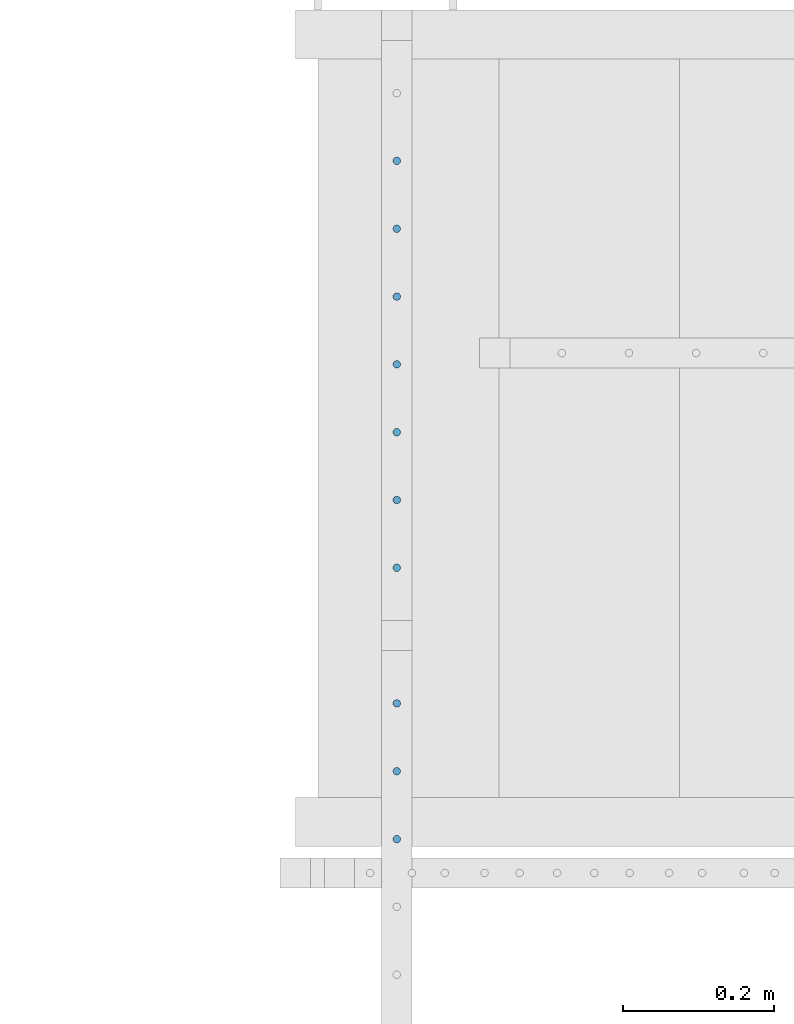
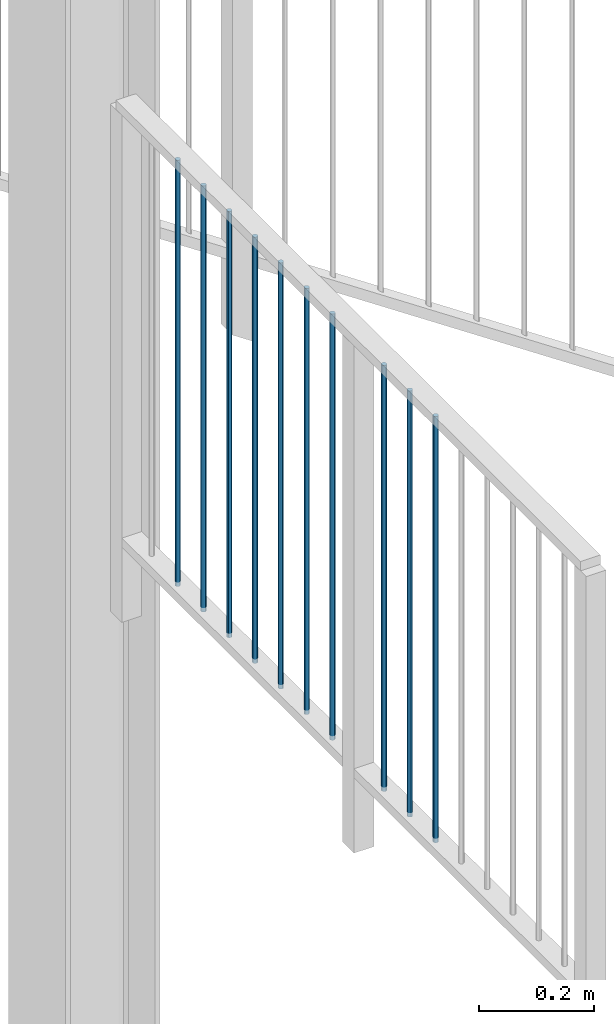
# One storey, part 22 of 135: 10 members, 1 element without a shape of its own.
"""IFC2X3 building model written with IfcOpenShell, lengths in millimetres."""

from ifc_helpers import new_model, entity, si_unit, converted_unit, derived_unit, money_unit, direction, frame, origin_with_axes, place, context, subcontext, project, spatial, faceted_brep, source, transform, mapped, material, type_object, type_shapes, element, aggregate, save


model = new_model("IFC2X3")

# Units and contexts
model_context = context("Model", 3, precision=0.01, world=origin_with_axes(), true_north=direction((0.0, 1.0)))
body_context = subcontext(model_context, "Body", "Model", "MODEL_VIEW")
ifc_project = project(units=[si_unit("LENGTHUNIT", "METRE", prefix="MILLI"), si_unit("AREAUNIT", "SQUARE_METRE"), si_unit("VOLUMEUNIT", "CUBIC_METRE"), converted_unit("PLANEANGLEUNIT", "DEGREE", entity("IfcPlaneAngleMeasure", 0.0174532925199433), si_unit("PLANEANGLEUNIT", "RADIAN"), dimensions=[0, 0, 0, 0, 0, 0, 0]), money_unit("EUR"), converted_unit("TIMEUNIT", "Year", entity("IfcTimeMeasure", 31557600.0), si_unit("TIMEUNIT", "SECOND"), dimensions=[0, 0, 1, 0, 0, 0, 0]), si_unit("MASSUNIT", "GRAM", prefix="KILO"), si_unit("THERMODYNAMICTEMPERATUREUNIT", "DEGREE_CELSIUS"), si_unit("LUMINOUSINTENSITYUNIT", "LUMEN"), si_unit("ENERGYUNIT", "JOULE", prefix="MEGA"), derived_unit("THERMALCONDUCTANCEUNIT", [(si_unit("POWERUNIT", "WATT"), 1), (si_unit("LENGTHUNIT", "METRE"), -1), (si_unit("THERMODYNAMICTEMPERATUREUNIT", "KELVIN"), -1)]), derived_unit("SPECIFICHEATCAPACITYUNIT", [(si_unit("ENERGYUNIT", "JOULE"), 1), (si_unit("MASSUNIT", "GRAM", prefix="KILO"), -1), (si_unit("THERMODYNAMICTEMPERATUREUNIT", "KELVIN"), -1)]), derived_unit("MASSDENSITYUNIT", [(si_unit("MASSUNIT", "GRAM", prefix="KILO"), 1), (si_unit("VOLUMEUNIT", "CUBIC_METRE"), -1)])], contexts=[model_context])

# Site, building, storey
site_placement = place(None, origin_with_axes())
site = spatial("IfcSite", under=ifc_project, at=site_placement, Name="Site", CompositionType="ELEMENT")
building_placement = place(site_placement, origin_with_axes())
building = spatial("IfcBuilding", under=site, at=building_placement, Name="Naam gebouw", CompositionType="ELEMENT")
storey_placement = place(building_placement, origin_with_axes())
storey = spatial("IfcBuildingStorey", under=building, at=storey_placement, Name="Begane grond N", CompositionType="ELEMENT", Elevation=0.0)

# Railing, members
railing_type = type_object("IfcRailingType", Name="Railing Type", PredefinedType="NOTDEFINED")
railing_placement = place(storey_placement, frame((56209.65277777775, 21185.9124251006, 7662.6), z_axis=(0.0, 0.0, 1.0), x_axis=(1.0, 0.0, 0.0)))
railing = element("IfcRailing", 1, at=railing_placement, inside=storey, type_object=railing_type, Name="_Reling-x", PredefinedType="NOTDEFINED")
ifc_material = material(Name="Metaal - Staal C")
member_type = type_object("IfcMemberType", Name="IfcMember", PredefinedType="MEMBER")
shared_shape = source(origin_with_axes(), body_context, "Body", "Brep", [
    faceted_brep([(0.0, -5.0, 0.0), (0.8682408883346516, -4.92403876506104, 0.0), (0.868240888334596, -4.92403876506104, 907.5000000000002), (0.0, -5.0, 907.5000000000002), (-0.868240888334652, -4.92403876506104, 0.0), (-1.710100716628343, -4.698463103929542, 0.0), (-2.500000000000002, -4.330127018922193, 0.0), (-3.213938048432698, -3.830222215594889, 0.0), (-3.830222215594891, -3.213938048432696, 0.0), (-4.330127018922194, -2.5, 0.0), (-4.698463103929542, -1.710100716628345, 0.0), (-4.924038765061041, -0.86824088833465, 0.0), (-5.0, 0.0, 0.0), (-4.92403876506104, 0.8682408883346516, 0.0), (-4.698463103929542, 1.710100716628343, 0.0), (-4.330127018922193, 2.500000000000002, 0.0), (-3.83022221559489, 3.213938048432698, 0.0), (-3.213938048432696, 3.83022221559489, 0.0), (-2.5, 4.330127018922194, 0.0), (-1.710100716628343, 4.698463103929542, 0.0), (-0.8682408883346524, 4.92403876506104, 0.0), (0.0, 5.0, 0.0), (0.8682408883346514, 4.92403876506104, 0.0), (1.710100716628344, 4.698463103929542, 0.0), (2.5, 4.330127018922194, 0.0), (3.213938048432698, 3.83022221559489, 0.0), (3.83022221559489, 3.213938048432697, 0.0), (4.330127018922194, 2.499999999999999, 0.0), (4.698463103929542, 1.710100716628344, 0.0), (4.92403876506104, 0.8682408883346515, 0.0), (5.0, 0.0, 0.0), (4.92403876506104, -0.8682408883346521, 0.0), (4.698463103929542, -1.710100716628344, 0.0), (4.330127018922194, -2.5, 0.0), (3.83022221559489, -3.213938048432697, 0.0), (3.213938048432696, -3.83022221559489, 0.0), (2.5, -4.330127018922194, 0.0), (1.710100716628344, -4.698463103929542, 0.0), (1.710100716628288, -4.698463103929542, 907.5000000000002), (2.499999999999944, -4.330127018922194, 907.5000000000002), (3.213938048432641, -3.83022221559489, 907.5000000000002), (3.830222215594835, -3.213938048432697, 907.5000000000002), (4.330127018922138, -2.5, 907.5000000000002), (4.698463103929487, -1.710100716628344, 907.5000000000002), (4.924038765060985, -0.8682408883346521, 907.5000000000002), (4.999999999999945, 0.0, 907.5000000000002), (4.924038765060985, 0.8682408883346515, 907.5000000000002), (4.698463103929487, 1.710100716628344, 907.5000000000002), (4.330127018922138, 2.499999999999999, 907.5000000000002), (3.830222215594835, 3.213938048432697, 907.5000000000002), (3.213938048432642, 3.83022221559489, 907.5000000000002), (2.499999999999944, 4.330127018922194, 907.5000000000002), (1.710100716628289, 4.698463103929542, 907.5000000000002), (0.8682408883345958, 4.92403876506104, 907.5000000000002), (0.0, 5.0, 907.5000000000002), (-0.868240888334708, 4.92403876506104, 907.5000000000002), (-1.710100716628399, 4.698463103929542, 907.5000000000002), (-2.500000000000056, 4.330127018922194, 907.5000000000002), (-3.213938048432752, 3.83022221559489, 907.5000000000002), (-3.830222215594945, 3.213938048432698, 907.5000000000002), (-4.330127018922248, 2.500000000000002, 907.5000000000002), (-4.698463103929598, 1.710100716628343, 907.5000000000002), (-4.924038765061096, 0.8682408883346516, 907.5000000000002), (-5.000000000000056, 0.0, 907.5000000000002), (-4.924038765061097, -0.86824088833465, 907.5000000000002), (-4.698463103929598, -1.710100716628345, 907.5000000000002), (-4.330127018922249, -2.5, 907.5000000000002), (-3.830222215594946, -3.213938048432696, 907.5000000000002), (-3.213938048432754, -3.830222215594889, 907.5000000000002), (-2.500000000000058, -4.330127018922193, 907.5000000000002), (-1.710100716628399, -4.698463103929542, 907.5000000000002), (-0.8682408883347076, -4.92403876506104, 907.5000000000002)], [[[0, 1, 2, 3]], [[0, 4, 5, 6, 7, 8, 9, 10, 11, 12, 13, 14, 15, 16, 17, 18, 19, 20, 21, 22, 23, 24, 25, 26, 27, 28, 29, 30, 31, 32, 33, 34, 35, 36, 37, 1]], [[1, 37, 38, 2]], [[3, 2, 38, 39, 40, 41, 42, 43, 44, 45, 46, 47, 48, 49, 50, 51, 52, 53, 54, 55, 56, 57, 58, 59, 60, 61, 62, 63, 64, 65, 66, 67, 68, 69, 70, 71]], [[4, 0, 3, 71]], [[5, 4, 71, 70]], [[6, 5, 70, 69]], [[7, 6, 69, 68]], [[8, 7, 68, 67]], [[9, 8, 67, 66]], [[10, 9, 66, 65]], [[11, 10, 65, 64]], [[12, 11, 64, 63]], [[13, 12, 63, 62]], [[14, 13, 62, 61]], [[15, 14, 61, 60]], [[16, 15, 60, 59]], [[17, 16, 59, 58]], [[18, 17, 58, 57]], [[19, 18, 57, 56]], [[20, 19, 56, 55]], [[21, 20, 55, 54]], [[22, 21, 54, 53]], [[23, 22, 53, 52]], [[24, 23, 52, 51]], [[25, 24, 51, 50]], [[26, 25, 50, 49]], [[27, 26, 49, 48]], [[28, 27, 48, 47]], [[29, 28, 47, 46]], [[30, 29, 46, 45]], [[31, 30, 45, 44]], [[32, 31, 44, 43]], [[33, 32, 43, 42]], [[34, 33, 42, 41]], [[35, 34, 41, 40]], [[36, 35, 40, 39]], [[37, 36, 39, 38]]]),
])
type_shapes(member_type, [shared_shape])
member_1_placement = place(railing_placement, frame((24.99999999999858, 20.00000000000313, 70.00000000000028), z_axis=(0.0, 0.0, 1.0), x_axis=(1.0, 0.0, 0.0)))
member_1 = element("IfcMember", 2, at=member_1_placement, type_object=member_type, material=ifc_material, Name="_Spijlen-x", ObjectType="MEMBER", context=body_context, shape_type="MappedRepresentation", body=[
    mapped(shared_shape, transform((0.0, 0.0, 0.0))),
])
member_2_placement = place(railing_placement, frame((24.99999999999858, 110.000000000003, 70.00000000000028), z_axis=(0.0, 0.0, 1.0), x_axis=(1.0, 0.0, 0.0)))
member_2 = element("IfcMember", 3, at=member_2_placement, type_object=member_type, material=ifc_material, Name="_Spijlen-x", ObjectType="MEMBER", context=body_context, shape_type="MappedRepresentation", body=[
    mapped(shared_shape, transform((0.0, 0.0, 0.0))),
])
member_3_placement = place(railing_placement, frame((24.99999999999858, 200.0000000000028, 70.00000000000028), z_axis=(0.0, 0.0, 1.0), x_axis=(1.0, 0.0, 0.0)))
member_3 = element("IfcMember", 4, at=member_3_placement, type_object=member_type, material=ifc_material, Name="_Spijlen-x", ObjectType="MEMBER", context=body_context, shape_type="MappedRepresentation", body=[
    mapped(shared_shape, transform((0.0, 0.0, 0.0))),
])
member_4_placement = place(railing_placement, frame((24.99999999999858, 380.0000000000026, 70.00000000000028), z_axis=(0.0, 0.0, 1.0), x_axis=(1.0, 0.0, 0.0)))
member_4 = element("IfcMember", 5, at=member_4_placement, type_object=member_type, material=ifc_material, Name="_Spijlen-x", ObjectType="MEMBER", context=body_context, shape_type="MappedRepresentation", body=[
    mapped(shared_shape, transform((0.0, 0.0, 0.0))),
])
member_5_placement = place(railing_placement, frame((24.99999999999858, 470.0000000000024, 70.00000000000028), z_axis=(0.0, 0.0, 1.0), x_axis=(1.0, 0.0, 0.0)))
member_5 = element("IfcMember", 6, at=member_5_placement, type_object=member_type, material=ifc_material, Name="_Spijlen-x", ObjectType="MEMBER", context=body_context, shape_type="MappedRepresentation", body=[
    mapped(shared_shape, transform((0.0, 0.0, 0.0))),
])
member_6_placement = place(railing_placement, frame((24.99999999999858, 560.0000000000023, 70.00000000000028), z_axis=(0.0, 0.0, 1.0), x_axis=(1.0, 0.0, 0.0)))
member_6 = element("IfcMember", 7, at=member_6_placement, type_object=member_type, material=ifc_material, Name="_Spijlen-x", ObjectType="MEMBER", context=body_context, shape_type="MappedRepresentation", body=[
    mapped(shared_shape, transform((0.0, 0.0, 0.0))),
])
member_7_placement = place(railing_placement, frame((24.99999999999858, 650.0000000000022, 70.00000000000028), z_axis=(0.0, 0.0, 1.0), x_axis=(1.0, 0.0, 0.0)))
member_7 = element("IfcMember", 8, at=member_7_placement, type_object=member_type, material=ifc_material, Name="_Spijlen-x", ObjectType="MEMBER", context=body_context, shape_type="MappedRepresentation", body=[
    mapped(shared_shape, transform((0.0, 0.0, 0.0))),
])
member_8_placement = place(railing_placement, frame((24.99999999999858, 740.000000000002, 70.00000000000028), z_axis=(0.0, 0.0, 1.0), x_axis=(1.0, 0.0, 0.0)))
member_8 = element("IfcMember", 9, at=member_8_placement, type_object=member_type, material=ifc_material, Name="_Spijlen-x", ObjectType="MEMBER", context=body_context, shape_type="MappedRepresentation", body=[
    mapped(shared_shape, transform((0.0, 0.0, 0.0))),
])
member_9_placement = place(railing_placement, frame((24.99999999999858, 830.0000000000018, 70.00000000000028), z_axis=(0.0, 0.0, 1.0), x_axis=(1.0, 0.0, 0.0)))
member_9 = element("IfcMember", 10, at=member_9_placement, type_object=member_type, material=ifc_material, Name="_Spijlen-x", ObjectType="MEMBER", context=body_context, shape_type="MappedRepresentation", body=[
    mapped(shared_shape, transform((0.0, 0.0, 0.0))),
])
member_10_placement = place(railing_placement, frame((24.99999999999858, 920.0000000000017, 70.00000000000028), z_axis=(0.0, 0.0, 1.0), x_axis=(1.0, 0.0, 0.0)))
member_10 = element("IfcMember", 11, at=member_10_placement, type_object=member_type, material=ifc_material, Name="_Spijlen-x", ObjectType="MEMBER", context=body_context, shape_type="MappedRepresentation", body=[
    mapped(shared_shape, transform((0.0, 0.0, 0.0))),
])
aggregate(railing, [member_1, member_2, member_3, member_4, member_5, member_6, member_7, member_8, member_9, member_10])

save(model, "model.ifc")
